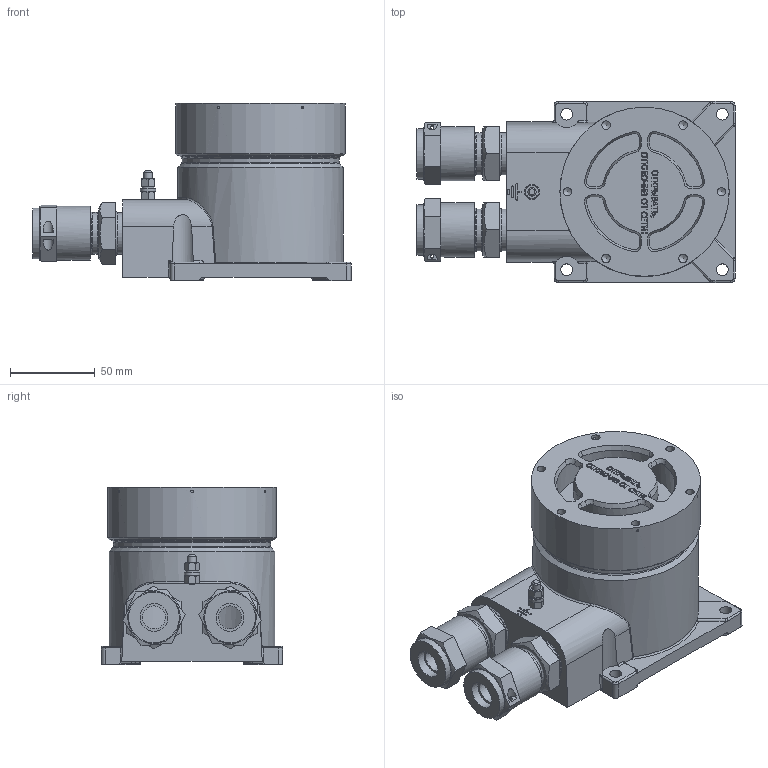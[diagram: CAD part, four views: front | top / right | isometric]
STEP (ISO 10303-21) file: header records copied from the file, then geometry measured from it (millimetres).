
FILE_DESCRIPTION(('STEP AP242'), '1');
FILE_NAME('908.3203.00.000蚜 离桧栝', '', ('UNSPECIFIED'), ('UNSPECIFIED'), 'ASCON STEP Converter 1.6', 'ASCON Math Kernel', '');
FILE_SCHEMA(('AP242_MANAGED_MODEL_BASED_3D_ENGINEERING_MIM_LF { 1 0 10303 442 1 1 4 }'));
Length unit declared in the file: millimetre
Bounding box: 188 x 107 x 105 mm (x, y, z)
Volume: 543494.4 mm3; surface area: 141524.2 mm2
Topology: 1 solids, 1 shells, 857 faces, 2198 edges, 1424 vertices
Faces by surface type: plane 432, cylinder 153, bspline 149, cone 71, torus 52
Full cylindrical faces by diameter (mm): 1.5 x6, 2 x2, 3.242 x3, 5 x10, 5.3 x2, 7 x4, 8 x1, 9 x2, 12.5 x1, 13.6 x2, 14 x2, 15 x2, 16.5 x4, 19 x1, 23 x1, 23.752 x1, 24.8 x4, 25.376 x1, 27 x2, 29 x1, 30 x2, 32 x2, 33 x1, 46.2 x1, 50 x1, 55 x1, 60 x1, 70 x1, 80 x1, 85 x1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
Entity records: 40673 total; most frequent: CARTESIAN_POINT 14504, ORIENTED_EDGE 4078, DIRECTION 3492, EDGE_CURVE 2039, VERTEX_POINT 1409, AXIS2_PLACEMENT_3D 1189, EDGE_LOOP 1120, LINE 1114
